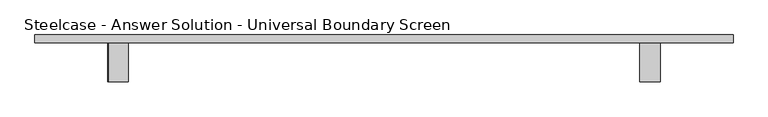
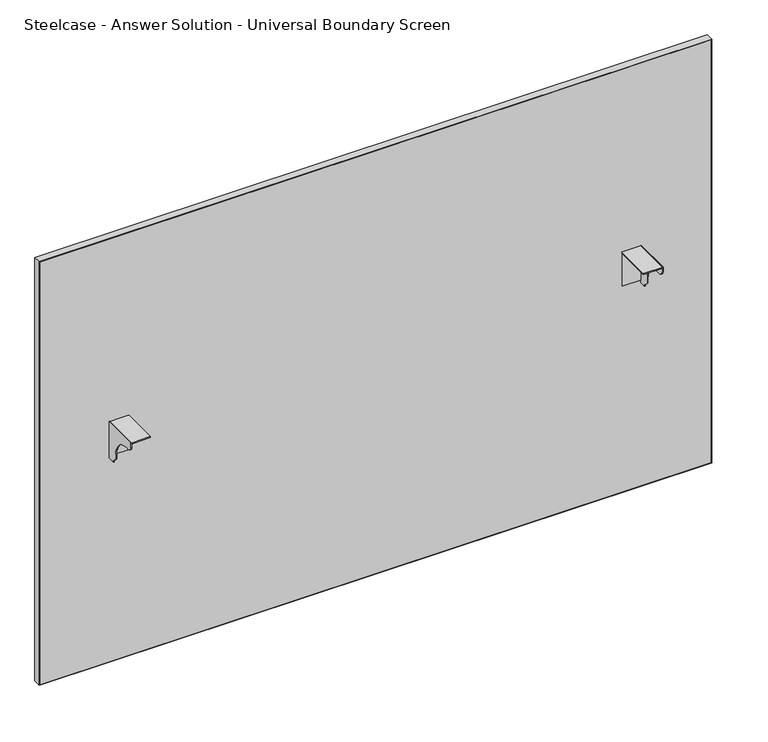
"""IFC4 building model written with IfcOpenShell, lengths in millimetres: furniture geometry, Steelcase - Answer Solution - Universal Boundary Screen : 48H x 72W."""

from ifc_helpers import new_model, si_unit, point, frame, frame_2d, origin, place, context, project, spatial, polyline, circle_curve, trimmed, segment, composite_curve, outline, extrude, source, transform, mapped, element, save


def steelcase_answer_solution_universal_boundary_screen_0adf0958(model_context):
    return source(origin(), model_context, "Body", "SweptSolid", [
        extrude(outline(polyline([(-103.1670434, 689.3558876), (-103.1670434, 692.1499758), (-1.5668826, 692.1499758), (-1.5668826, 595.5029317), (-4.1079736, 595.5029317), (-4.1079736, 689.3558876), (-103.1670434, 689.3558876)])), frame((1200.6336711, 0.0, 0.0), z_axis=(1.0, 0.0, 0.0), x_axis=(0.0, 1.0, 0.0)), (0.0, 0.0, 1.0), 53.3444116),
        extrude(outline(composite_curve([segment(polyline([(-103.1670434, 679.2814802), (-103.1670434, 692.1499758), (-1.5668826, 692.1499758), (-1.5668826, 586.9634093), (-19.8232934, 586.9634093), (-19.8232934, 589.7574248), (-32.0458032, 601.9799346), (-32.0458032, 615.7814802)]), True, "CONTINUOUS"), segment(trimmed(circle_curve(frame_2d((-82.8458032, 615.7814802)), 50.8), [point((-32.0458032, 615.7814802))], [point((-82.8458032, 666.5814802))], True, "CARTESIAN"), True, "CONTINUOUS"), segment(polyline([(-82.8458032, 666.5814802), (-90.4670434, 666.5814802)]), True, "CONTINUOUS"), segment(trimmed(circle_curve(frame_2d((-90.4670434, 679.2814802)), 12.7), [point((-90.4670434, 666.5814802))], [point((-103.1670434, 679.2814802))], False, "CARTESIAN"), True, "CONTINUOUS")], self_intersect=False)), frame((1251.4328959, 0.0, 0.0), z_axis=(1.0, 0.0, 0.0), x_axis=(0.0, 1.0, 0.0)), (0.0, 0.0, 1.0), 2.5451868),
        extrude(outline(polyline([(-103.1670434, 689.3558876), (-103.1670434, 692.1499758), (-1.5668826, 692.1499758), (-1.5668826, 595.5029317), (-4.1079736, 595.5029317), (-4.1079736, 689.3558876), (-103.1670434, 689.3558876)])), frame((-191.2767306, 0.0, 0.0), z_axis=(1.0, 0.0, 0.0), x_axis=(0.0, 1.0, 0.0)), (0.0, 0.0, 1.0), 50.7992249),
        extrude(outline(composite_curve([segment(polyline([(-103.1670434, 679.2814802), (-103.1670434, 692.1499758), (-1.5668826, 692.1499758), (-1.5668826, 586.9634093), (-19.8232934, 586.9634093), (-19.8232934, 589.7574248), (-32.0458032, 601.9799346), (-32.0458032, 615.7814802)]), True, "CONTINUOUS"), segment(trimmed(circle_curve(frame_2d((-82.8458032, 615.7814802)), 50.8), [point((-32.0458032, 615.7814802))], [point((-82.8458032, 666.5814802))], True, "CARTESIAN"), True, "CONTINUOUS"), segment(polyline([(-82.8458032, 666.5814802), (-90.4670434, 666.5814802)]), True, "CONTINUOUS"), segment(trimmed(circle_curve(frame_2d((-90.4670434, 679.2814802)), 12.7), [point((-90.4670434, 666.5814802))], [point((-103.1670434, 679.2814802))], False, "CARTESIAN"), True, "CONTINUOUS")], self_intersect=False)), frame((-193.8219173, 0.0, 0.0), z_axis=(1.0, 0.0, 0.0), x_axis=(0.0, 1.0, 0.0)), (0.0, 0.0, 1.0), 2.5451868),
        extrude(outline(polyline([(-383.3293422, 18.9055112), (1443.4855076, 18.9055112), (1443.4855076, -1.5668826), (-383.3293422, -1.5668826), (-383.3293422, 18.9055112)])), frame((0.0, 0.0, 1.016), z_axis=(0.0, 0.0, 1.0), x_axis=(1.0, 0.0, 0.0)), (0.0, 0.0, 1.0), 1217.1914249),
        extrude(outline(polyline([(1219.2, 1444.4780827), (1219.2, -384.3219173), (0.0, -384.3219173), (0.0, 1444.4780827), (1219.2, 1444.4780827)]), holes=[polyline([(1218.2074249, 1443.4855076), (1.016, 1443.4855076), (1.016, -383.3293422), (1218.2074249, -383.3293422), (1218.2074249, 1443.4855076)])]), frame((0.0, -1.5668826, 0.0), z_axis=(0.0, 1.0, 0.0), x_axis=(0.0, 0.0, 1.0)), (0.0, 0.0, 1.0), 20.4723938),
    ])


if __name__ == "__main__":
    model = new_model("IFC4")
    model_context = context("Model", 3, world=origin())
    ifc_project = project(units=[si_unit("LENGTHUNIT", "METRE", prefix="MILLI")], contexts=[model_context])
    site = spatial("IfcSite", under=ifc_project)
    building = spatial("IfcBuilding", under=site)
    placement = place(None, origin())
    steelcase_answer_solution_universal_boundary_screen_shape = steelcase_answer_solution_universal_boundary_screen_0adf0958(model_context)
    element("IfcFurniture", 1, ObjectType="Steelcase - Answer Solution - Universal Boundary Screen : 48H x 72W", at=placement, inside=building, context=model_context, shape_type="MappedRepresentation", body=[
        mapped(steelcase_answer_solution_universal_boundary_screen_shape, transform((0.0, 0.0, 0.0), x_axis=(1.0, 0.0, 0.0), y_axis=(0.0, 1.0, 0.0), z_axis=(0.0, 0.0, 1.0))),
    ])
    save(model, "model.ifc")
